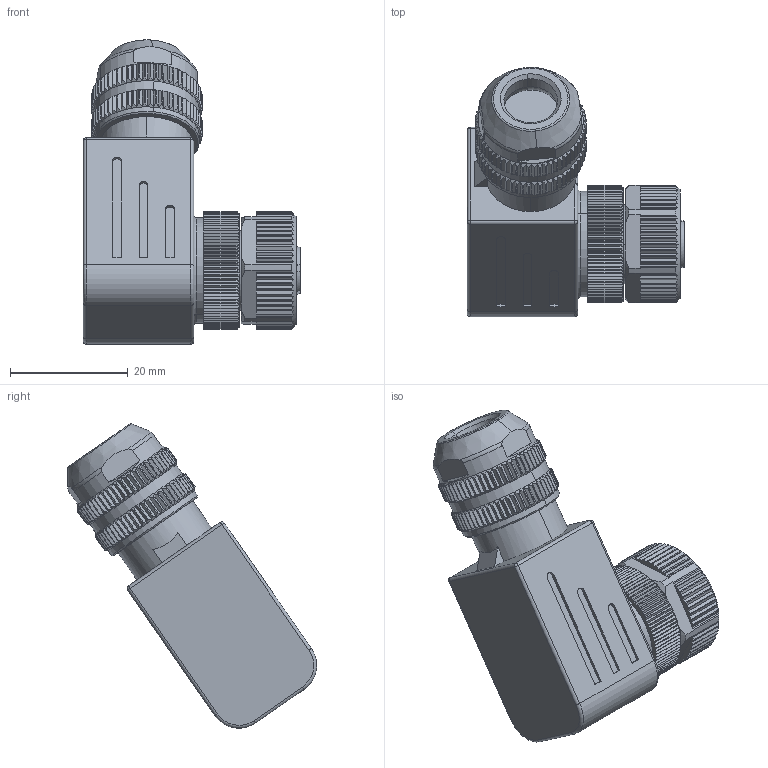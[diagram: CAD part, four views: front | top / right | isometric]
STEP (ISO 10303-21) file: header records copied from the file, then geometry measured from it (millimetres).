
FILE_DESCRIPTION (( 'STEP AP203' ), '1' );
FILE_NAME ('0CF141.STEP', '2023-08-18T12:43:16', ( '' ), ( '' ), 'SwSTEP 2.0', 'SolidWorks 2016', '' );
FILE_SCHEMA (( 'CONFIG_CONTROL_DESIGN' ));
Length unit declared in the file: millimetre
Products named in the file (1): 0CF141
Bounding box: 37 x 42.39 x 51.77 mm (x, y, z)
Volume: 20090.6 mm3; surface area: 8049.5 mm2
Topology: 1 solids, 3 shells, 1245 faces, 3589 edges, 2378 vertices
Faces by surface type: plane 699, cylinder 368, cone 141, bspline 19, torus 14, sphere 4
Entity records: 50303 total; most frequent: CARTESIAN_POINT 18874, ORIENTED_EDGE 7170, DIRECTION 5809, EDGE_CURVE 3585, VERTEX_POINT 2378, AXIS2_PLACEMENT_3D 2034, LINE 1741, VECTOR 1741
